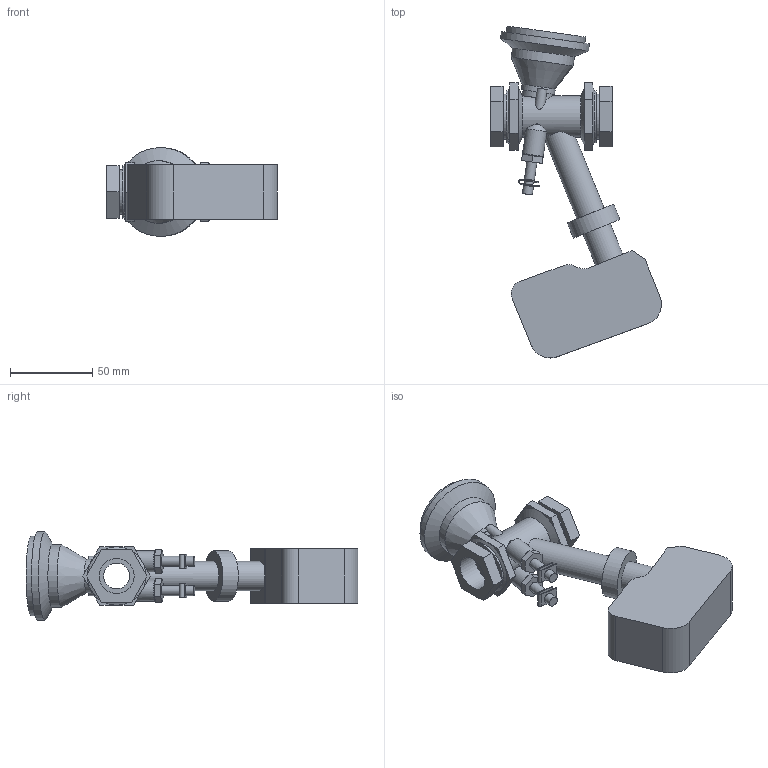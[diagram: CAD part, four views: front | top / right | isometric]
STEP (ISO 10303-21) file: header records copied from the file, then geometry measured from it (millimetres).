
FILE_DESCRIPTION(/* description */ ('VIC BALANCING AND CONTROL VALVE SERIES 7CP (FPT)-TA SLIDER 160 FAIL-SAFE','CAx-IF Rec.Pracs.---Representation and Presentation of Product Manufacturing Information (PMI)---4.0---2014-10-13'),/* implementation_level */ '2;1');
FILE_NAME(/* name */ 'C:\Users\Vjadhav\AppData\Roaming\Autodesk\ApplicationPlugins\Victaulic.Temp\A633\Victaulic_IPS_Valve Balancing Pressure Independent_TA Series 7CP (FPT)_Slider 160 Fail-Safe_LF_0.5 (15).stp',/* time_stamp */ '2021-09-14T20:02:46+06:00',/* author */ ('Vjadhav'),/* organization */ ('Victaulic'),/* preprocessor_version */ 'ST-DEVELOPER v17.2',/* originating_system */ 'Autodesk Inventor 2019',/* authorisation */ '');
FILE_SCHEMA (('AP242_MANAGED_MODEL_BASED_3D_ENGINEERING_MIM_LF { 1 0 10303 442 1 1 4 }'));
Length unit declared in the file: inch
Products named in the file (2): 7CP_Slider 160 Fail-Safe_LF-0.5; 7CP_LF-0.5
Assembly tree (1 placements, depth 2):
  7CP_Slider 160 Fail-Safe_LF-0.5
    7CP_LF-0.5
Bounding box: 103.96 x 201.93 x 54.1 mm (x, y, z)
Volume: 229460 mm3; surface area: 48521.2 mm2
Topology: 1 solids, 1 shells, 174 faces, 432 edges, 288 vertices
Faces by surface type: plane 120, cylinder 46, cone 8
Full cylindrical faces by diameter (mm): 5.08 x6, 6.096 x6, 12.7 x2, 15.799 x2, 17.78 x2, 20.32 x1, 21.336 x3, 25.4 x1, 27.432 x2, 30.471 x1, 31.75 x2, 38.1 x1, 48.26 x1, 54.102 x1
Entity records: 5720 total; most frequent: CARTESIAN_POINT 1118, DIRECTION 944, ORIENTED_EDGE 864, EDGE_CURVE 432, AXIS2_PLACEMENT_3D 350, VERTEX_POINT 288, LINE 244, VECTOR 244
